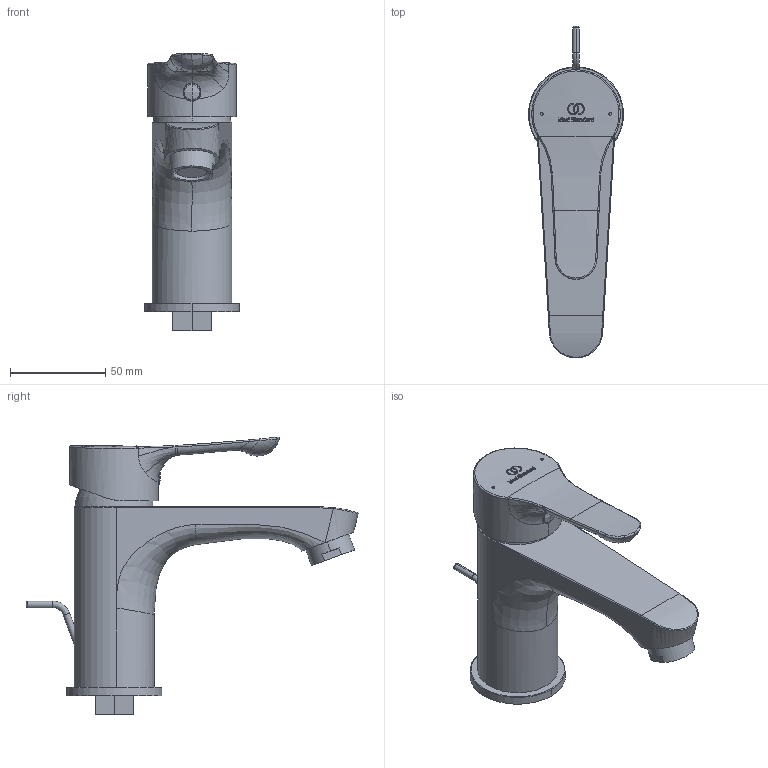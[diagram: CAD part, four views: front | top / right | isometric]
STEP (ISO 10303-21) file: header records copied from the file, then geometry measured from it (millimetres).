
FILE_DESCRIPTION((''),'2;1');
FILE_NAME('BC486_3DPL','2023-03-29T14:23:39',('HristovG'),('IDEAL STANDARD BVBA'),'CREO PARAMETRIC BY PTC INC, 2022024','CREO PARAMETRIC BY PTC INC, 2022024','');
FILE_SCHEMA(('AP242_MANAGED_MODEL_BASED_3D_ENGINEERING_MIM_LF { 1 0 10303 442 1 1 4 }'));
Length unit declared in the file: millimetre
Products named in the file (1): BC486_3DPL
Bounding box: 50 x 174.48 x 146.08 mm (x, y, z)
Volume: 273700.5 mm3; surface area: 38152.1 mm2
Topology: 1 solids, 4 shells, 234 faces, 572 edges, 370 vertices
Faces by surface type: bspline 113, plane 57, cylinder 49, torus 7, cone 6, sphere 2
Entity records: 25367 total; most frequent: CARTESIAN_POINT 20032, ORIENTED_EDGE 1120, DIRECTION 678, EDGE_CURVE 566, VERTEX_POINT 366, EDGE_LOOP 263, B_SPLINE_CURVE_WITH_KNOTS 248, FACE_OUTER_BOUND 234
